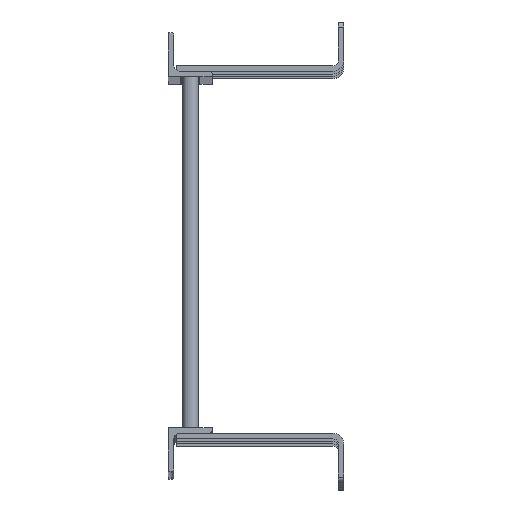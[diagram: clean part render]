
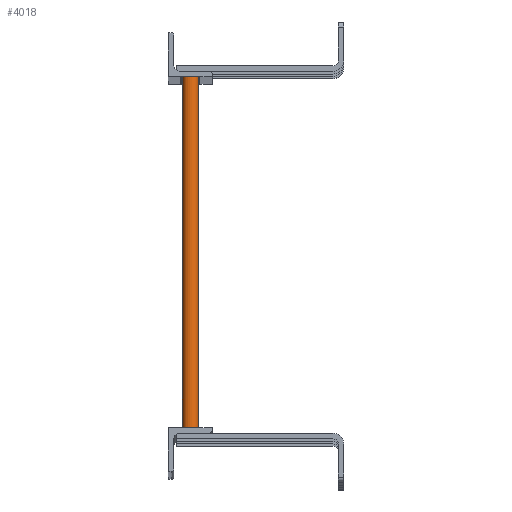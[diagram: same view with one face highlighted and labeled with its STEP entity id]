
A CAD part, top view. The second image highlights one B-rep face of the part: STEP entity #4018.
In plain terms, the highlighted cylindrical face has radius 9.525 mm (diameter 19.05 mm), a full revolution.
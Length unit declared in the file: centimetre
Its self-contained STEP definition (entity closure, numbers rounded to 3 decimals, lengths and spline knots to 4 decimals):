
#831=FACE_BOUND('',#1431,.T.);
#1055=FACE_OUTER_BOUND('',#1430,.T.);
#1430=EDGE_LOOP('',(#3444));
#1431=EDGE_LOOP('',(#3445));
#1650=CIRCLE('',#4482,0.9525);
#1651=CIRCLE('',#4483,0.9525);
#2006=VERTEX_POINT('',#6695);
#2007=VERTEX_POINT('',#6697);
#2486=EDGE_CURVE('',#2006,#2006,#1650,.T.);
#2487=EDGE_CURVE('',#2007,#2007,#1651,.T.);
#3444=ORIENTED_EDGE('',*,*,#2486,.T.);
#3445=ORIENTED_EDGE('',*,*,#2487,.F.);
#3548=CYLINDRICAL_SURFACE('',#4481,0.9525);
#4018=ADVANCED_FACE('',(#1055,#831),#3548,.T.);
#4481=AXIS2_PLACEMENT_3D('',#6694,#5628,#5629);
#4482=AXIS2_PLACEMENT_3D('',#6696,#5630,#5631);
#4483=AXIS2_PLACEMENT_3D('',#6698,#5632,#5633);
#5628=DIRECTION('center_axis',(0.,-1.,0.));
#5629=DIRECTION('ref_axis',(1.,0.,0.));
#5630=DIRECTION('center_axis',(0.,1.,0.));
#5631=DIRECTION('ref_axis',(1.,0.,0.));
#5632=DIRECTION('center_axis',(0.,1.,0.));
#5633=DIRECTION('ref_axis',(1.,0.,0.));
#6694=CARTESIAN_POINT('Origin',(2.54,0.635,521.97));
#6695=CARTESIAN_POINT('',(1.5875,-41.275,521.97));
#6696=CARTESIAN_POINT('Origin',(2.54,-41.275,521.97));
#6697=CARTESIAN_POINT('',(1.5875,0.635,521.97));
#6698=CARTESIAN_POINT('Origin',(2.54,0.635,521.97));
